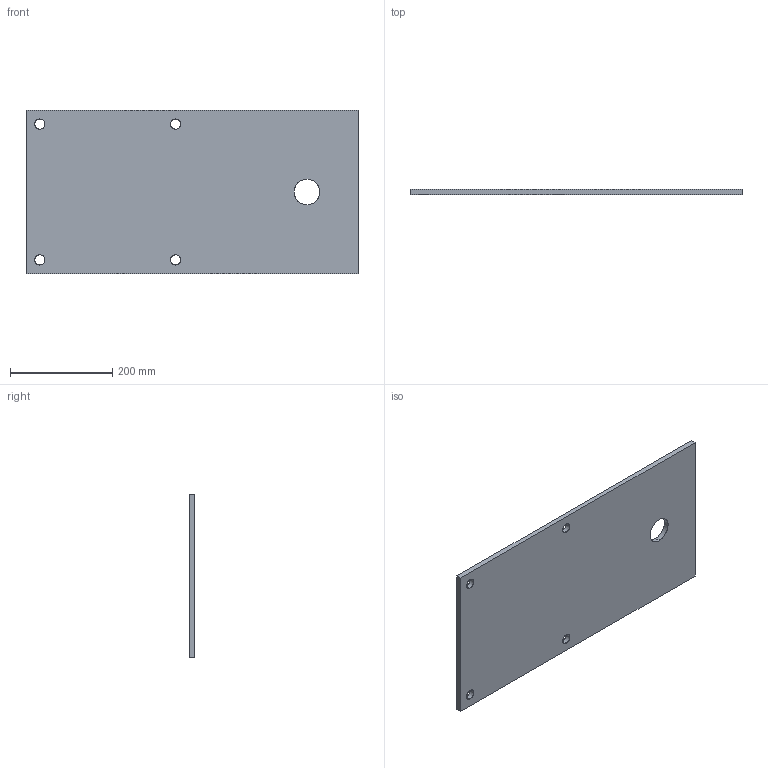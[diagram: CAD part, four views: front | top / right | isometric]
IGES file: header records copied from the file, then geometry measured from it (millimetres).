
Start section: SolidWorks IGES file using analytic representation for surfaces
Global section: file name: C:\Users\sebas\Documents\SOLIDWORKSComposer\TESIS\3. Dosificadora\IGS\Base Inferior de la caja.IGS; native system: SolidWorks 2022; preprocessor: SolidWorks 2022; author: sebas; date: 220619.065559; units: millimetre
Bounding box: 650 x 10 x 320 mm (x, y, z)
Surface area: 433043.7 mm2 (no closed solid volume)
Topology: 0 solids, 0 shells, 16 faces, 384 edges, 384 vertices
Faces by surface type: revolution 10, bspline 6
